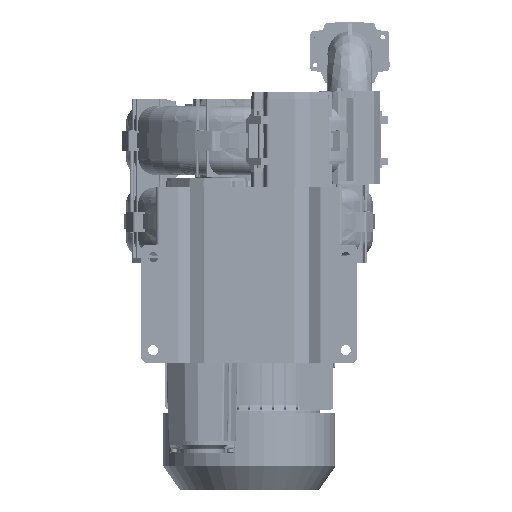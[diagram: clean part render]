
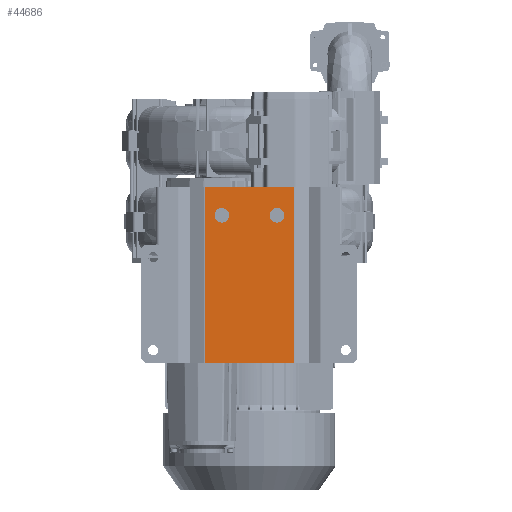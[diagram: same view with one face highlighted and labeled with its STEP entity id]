
A CAD part, front view. The second image highlights one B-rep face of the part: STEP entity #44686.
In plain terms, the highlighted planar face has unit normal (0, -1, 0).
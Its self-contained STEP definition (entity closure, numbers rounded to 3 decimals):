
#4943 = CARTESIAN_POINT ( 'NONE',  ( -67.005, -232., 235. ) ) ;
#8849 = DIRECTION ( 'NONE',  ( 0., 0., -1. ) ) ;
#17091 = ORIENTED_EDGE ( 'NONE', *, *, #92268, .T. ) ;
#31556 = CARTESIAN_POINT ( 'NONE',  ( 30.5, -232., 192. ) ) ;
#35114 = FACE_BOUND ( 'NONE', #154866, .T. ) ;
#35872 = LINE ( 'NONE', #52130, #174072 ) ;
#44686 = ADVANCED_FACE ( 'NONE', ( #35114, #200063, #63364 ), #145876, .T. ) ;
#47134 = CIRCLE ( 'NONE', #119992, 11. ) ;
#47239 = EDGE_CURVE ( 'NONE', #67432, #79422, #55860, .T. ) ;
#50254 = EDGE_CURVE ( 'NONE', #202336, #202336, #47134, .T. ) ;
#50634 = EDGE_LOOP ( 'NONE', ( #102143, #146522, #87015, #214829 ) ) ;
#51340 = DIRECTION ( 'NONE',  ( -1., 0., 0. ) ) ;
#51853 = CARTESIAN_POINT ( 'NONE',  ( -67.005, -232., -30. ) ) ;
#52130 = CARTESIAN_POINT ( 'NONE',  ( 67.005, -232., 235. ) ) ;
#54738 = EDGE_CURVE ( 'NONE', #112809, #67432, #35872, .T. ) ;
#55860 = LINE ( 'NONE', #4943, #170962 ) ;
#58542 = VECTOR ( 'NONE', #8849, 1000. ) ;
#59831 = LINE ( 'NONE', #77156, #73115 ) ;
#61030 = VERTEX_POINT ( 'NONE', #122900 ) ;
#63364 = FACE_BOUND ( 'NONE', #197152, .T. ) ;
#64052 = VERTEX_POINT ( 'NONE', #31556 ) ;
#66493 = DIRECTION ( 'NONE',  ( 0., 1., 0. ) ) ;
#67432 = VERTEX_POINT ( 'NONE', #185102 ) ;
#68832 = CARTESIAN_POINT ( 'NONE',  ( -30.5, -232., 192. ) ) ;
#72559 = ORIENTED_EDGE ( 'NONE', *, *, #50254, .F. ) ;
#73115 = VECTOR ( 'NONE', #143424, 1000. ) ;
#77156 = CARTESIAN_POINT ( 'NONE',  ( 67.005, -232., -30. ) ) ;
#79422 = VERTEX_POINT ( 'NONE', #51853 ) ;
#87015 = ORIENTED_EDGE ( 'NONE', *, *, #54738, .T. ) ;
#90672 = CARTESIAN_POINT ( 'NONE',  ( 67.005, -232., 235. ) ) ;
#92268 = EDGE_CURVE ( 'NONE', #64052, #64052, #132586, .T. ) ;
#102143 = ORIENTED_EDGE ( 'NONE', *, *, #185370, .F. ) ;
#103121 = DIRECTION ( 'NONE',  ( -1., 0., 0. ) ) ;
#103630 = DIRECTION ( 'NONE',  ( 0., 0., -1. ) ) ;
#107546 = CARTESIAN_POINT ( 'NONE',  ( 67.005, -232., 235. ) ) ;
#112809 = VERTEX_POINT ( 'NONE', #90672 ) ;
#119992 = AXIS2_PLACEMENT_3D ( 'NONE', #155216, #140020, #142163 ) ;
#122900 = CARTESIAN_POINT ( 'NONE',  ( 67.005, -232., -30. ) ) ;
#130571 = DIRECTION ( 'NONE',  ( -1., 0., 0. ) ) ;
#132586 = CIRCLE ( 'NONE', #177617, 11. ) ;
#140020 = DIRECTION ( 'NONE',  ( 0., -1., 0. ) ) ;
#142163 = DIRECTION ( 'NONE',  ( 1., 0., 0. ) ) ;
#143424 = DIRECTION ( 'NONE',  ( -1., 0., 0. ) ) ;
#145876 = PLANE ( 'NONE',  #173782 ) ;
#146522 = ORIENTED_EDGE ( 'NONE', *, *, #148949, .F. ) ;
#148949 = EDGE_CURVE ( 'NONE', #112809, #61030, #173773, .T. ) ;
#154866 = EDGE_LOOP ( 'NONE', ( #17091 ) ) ;
#155216 = CARTESIAN_POINT ( 'NONE',  ( -41.5, -232., 192. ) ) ;
#170962 = VECTOR ( 'NONE', #103630, 1000. ) ;
#173773 = LINE ( 'NONE', #107546, #58542 ) ;
#173782 = AXIS2_PLACEMENT_3D ( 'NONE', #195755, #179466, #51340 ) ;
#174072 = VECTOR ( 'NONE', #103121, 1000. ) ;
#177617 = AXIS2_PLACEMENT_3D ( 'NONE', #213019, #66493, #130571 ) ;
#179466 = DIRECTION ( 'NONE',  ( 0., -1., 0. ) ) ;
#185102 = CARTESIAN_POINT ( 'NONE',  ( -67.005, -232., 235. ) ) ;
#185370 = EDGE_CURVE ( 'NONE', #61030, #79422, #59831, .T. ) ;
#195755 = CARTESIAN_POINT ( 'NONE',  ( 67.005, -232., 235. ) ) ;
#197152 = EDGE_LOOP ( 'NONE', ( #72559 ) ) ;
#200063 = FACE_OUTER_BOUND ( 'NONE', #50634, .T. ) ;
#202336 = VERTEX_POINT ( 'NONE', #68832 ) ;
#213019 = CARTESIAN_POINT ( 'NONE',  ( 41.5, -232., 192. ) ) ;
#214829 = ORIENTED_EDGE ( 'NONE', *, *, #47239, .T. ) ;
